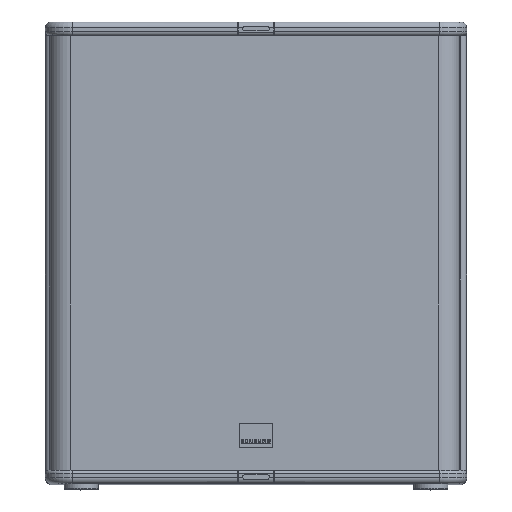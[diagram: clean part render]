
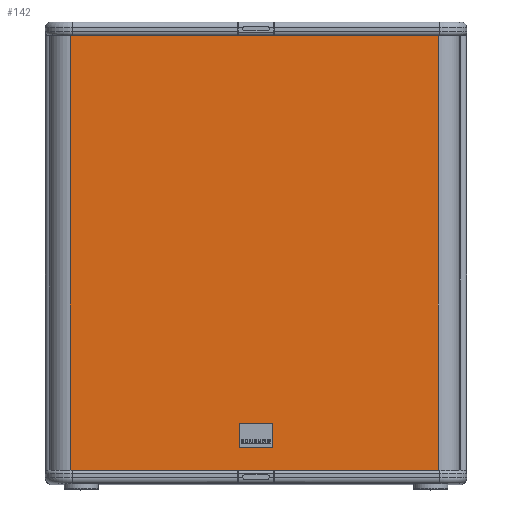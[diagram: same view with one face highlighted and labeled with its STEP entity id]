
A CAD part, top view. The second image highlights one B-rep face of the part: STEP entity #142.
In plain terms, the highlighted planar face has unit normal (0, 0, 1) as drawn and (0, -1, 0) by its records, which use the part's own axes.
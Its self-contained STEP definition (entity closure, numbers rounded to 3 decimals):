
#106 = ORIENTED_EDGE ( 'NONE', *, *, #204, .F. ) ;
#115 = VERTEX_POINT ( 'NONE', #4884 ) ;
#118 = EDGE_CURVE ( 'NONE', #144, #129, #4878, .T. ) ;
#119 = ORIENTED_EDGE ( 'NONE', *, *, #118, .F. ) ;
#123 = VERTEX_POINT ( 'NONE', #4874 ) ;
#126 = EDGE_CURVE ( 'NONE', #123, #129, #4869, .T. ) ;
#127 = EDGE_CURVE ( 'NONE', #115, #144, #4864, .T. ) ;
#129 = VERTEX_POINT ( 'NONE', #4925 ) ;
#130 = EDGE_LOOP ( 'NONE', ( #131, #119, #147, #106 ) ) ;
#131 = ORIENTED_EDGE ( 'NONE', *, *, #126, .T. ) ;
#142 = ADVANCED_FACE ( 'NONE', ( #4917 ), #4916, .T. ) ;
#144 = VERTEX_POINT ( 'NONE', #4905 ) ;
#147 = ORIENTED_EDGE ( 'NONE', *, *, #127, .F. ) ;
#204 = EDGE_CURVE ( 'NONE', #123, #115, #5002, .T. ) ;
#4860 = DIRECTION ( 'NONE',  ( 1., 0., 0. ) ) ;
#4861 = VECTOR ( 'NONE', #4860, 1000. ) ;
#4862 = CARTESIAN_POINT ( 'NONE',  ( 4.54, 6.5, 485. ) ) ;
#4864 = LINE ( 'NONE', #4862, #4861 ) ;
#4865 = DIRECTION ( 'NONE',  ( 1., 0., 0. ) ) ;
#4866 = VECTOR ( 'NONE', #4865, 1000. ) ;
#4868 = CARTESIAN_POINT ( 'NONE',  ( 233.04, 6.5, 0. ) ) ;
#4869 = LINE ( 'NONE', #4868, #4866 ) ;
#4874 = CARTESIAN_POINT ( 'NONE',  ( 28.04, 6.5, 0. ) ) ;
#4875 = DIRECTION ( 'NONE',  ( 0., 0., -1. ) ) ;
#4876 = VECTOR ( 'NONE', #4875, 1000. ) ;
#4877 = CARTESIAN_POINT ( 'NONE',  ( 438.04, 6.5, 0. ) ) ;
#4878 = LINE ( 'NONE', #4877, #4876 ) ;
#4884 = CARTESIAN_POINT ( 'NONE',  ( 28.04, 6.5, 485. ) ) ;
#4905 = CARTESIAN_POINT ( 'NONE',  ( 438.04, 6.5, 485. ) ) ;
#4912 = DIRECTION ( 'NONE',  ( 1., 0., 0. ) ) ;
#4913 = DIRECTION ( 'NONE',  ( 0., -1., 0. ) ) ;
#4914 = CARTESIAN_POINT ( 'NONE',  ( 438.04, 6.5, 0. ) ) ;
#4915 = AXIS2_PLACEMENT_3D ( 'NONE', #4914, #4913, #4912 ) ;
#4916 = PLANE ( 'NONE',  #4915 ) ;
#4917 = FACE_OUTER_BOUND ( 'NONE', #130, .T. ) ;
#4925 = CARTESIAN_POINT ( 'NONE',  ( 438.04, 6.5, 0. ) ) ;
#4998 = DIRECTION ( 'NONE',  ( 0., 0., 1. ) ) ;
#4999 = VECTOR ( 'NONE', #4998, 1000. ) ;
#5001 = CARTESIAN_POINT ( 'NONE',  ( 28.04, 6.5, 0. ) ) ;
#5002 = LINE ( 'NONE', #5001, #4999 ) ;
